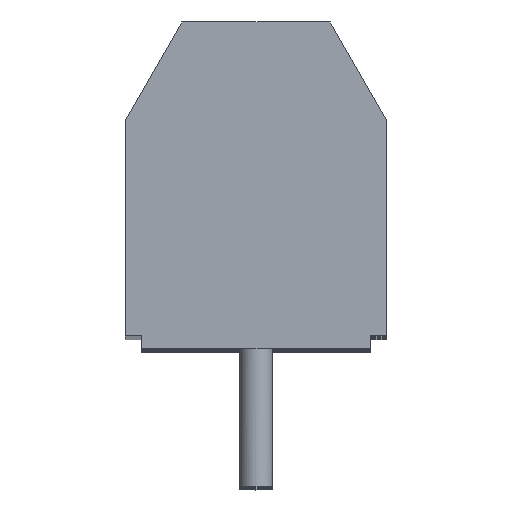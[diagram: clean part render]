
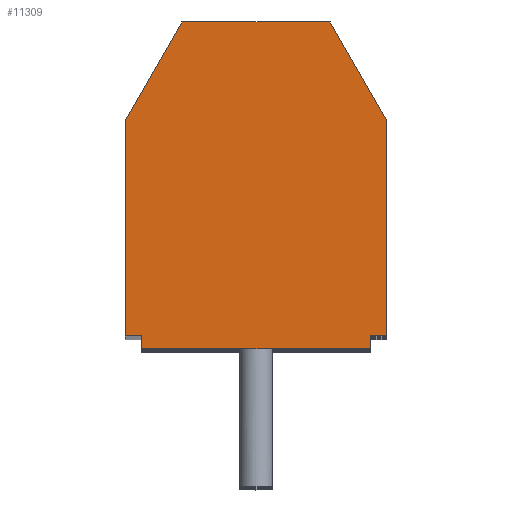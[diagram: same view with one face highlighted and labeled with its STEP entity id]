
A CAD part, top view. The second image highlights one B-rep face of the part: STEP entity #11309.
In plain terms, the highlighted planar face has unit normal (0, 0, 1).
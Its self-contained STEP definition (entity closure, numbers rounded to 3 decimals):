
#4764 = DIRECTION ( 'NONE',  ( 0., -1., 0. ) ) ;
#4765 = VECTOR ( 'NONE', #4764, 1000. ) ;
#4766 = CARTESIAN_POINT ( 'NONE',  ( -3.062, -3.045, 0. ) ) ;
#4767 = LINE ( 'NONE', #4766, #4765 ) ;
#4769 = CARTESIAN_POINT ( 'NONE',  ( -3.062, -3.245, 0. ) ) ;
#4843 = CARTESIAN_POINT ( 'NONE',  ( -3.062, -2.845, 0. ) ) ;
#6956 = CARTESIAN_POINT ( 'NONE',  ( -3.562, -2.845, 0. ) ) ;
#6957 = DIRECTION ( 'NONE',  ( -1., 0., 0. ) ) ;
#6958 = VECTOR ( 'NONE', #6957, 1000. ) ;
#6959 = CARTESIAN_POINT ( 'NONE',  ( -3.562, -2.845, 0. ) ) ;
#6960 = LINE ( 'NONE', #6959, #6958 ) ;
#9958 = VERTEX_POINT ( 'NONE', #23939 ) ;
#9960 = EDGE_CURVE ( 'NONE', #10034, #9958, #23938, .T. ) ;
#10014 = VERTEX_POINT ( 'NONE', #23996 ) ;
#10016 = EDGE_CURVE ( 'NONE', #10024, #10014, #23995, .T. ) ;
#10024 = VERTEX_POINT ( 'NONE', #23981 ) ;
#10026 = EDGE_CURVE ( 'NONE', #9958, #10024, #23980, .T. ) ;
#10034 = VERTEX_POINT ( 'NONE', #24030 ) ;
#10036 = EDGE_CURVE ( 'NONE', #19639, #10034, #24029, .T. ) ;
#10172 = EDGE_CURVE ( 'NONE', #10173, #21179, #24097, .T. ) ;
#10173 = VERTEX_POINT ( 'NONE', #24093 ) ;
#11268 = VERTEX_POINT ( 'NONE', #25834 ) ;
#11271 = EDGE_CURVE ( 'NONE', #10014, #11268, #25832, .T. ) ;
#11297 = ORIENTED_EDGE ( 'NONE', *, *, #11298, .F. ) ;
#11298 = EDGE_CURVE ( 'NONE', #11328, #11268, #25853, .T. ) ;
#11309 = ADVANCED_FACE ( 'NONE', ( #25897 ), #25903, .T. ) ;
#11310 = EDGE_LOOP ( 'NONE', ( #11311, #11312, #11313, #11314, #11315, #11316, #11317, #11318, #11319, #11297 ) ) ;
#11311 = ORIENTED_EDGE ( 'NONE', *, *, #11327, .T. ) ;
#11312 = ORIENTED_EDGE ( 'NONE', *, *, #10172, .T. ) ;
#11313 = ORIENTED_EDGE ( 'NONE', *, *, #21178, .F. ) ;
#11314 = ORIENTED_EDGE ( 'NONE', *, *, #19642, .T. ) ;
#11315 = ORIENTED_EDGE ( 'NONE', *, *, #10036, .T. ) ;
#11316 = ORIENTED_EDGE ( 'NONE', *, *, #9960, .T. ) ;
#11317 = ORIENTED_EDGE ( 'NONE', *, *, #10026, .T. ) ;
#11318 = ORIENTED_EDGE ( 'NONE', *, *, #10016, .T. ) ;
#11319 = ORIENTED_EDGE ( 'NONE', *, *, #11271, .T. ) ;
#11327 = EDGE_CURVE ( 'NONE', #11328, #10173, #25886, .T. ) ;
#11328 = VERTEX_POINT ( 'NONE', #25882 ) ;
#19639 = VERTEX_POINT ( 'NONE', #4769 ) ;
#19642 = EDGE_CURVE ( 'NONE', #19665, #19639, #4767, .T. ) ;
#19665 = VERTEX_POINT ( 'NONE', #4843 ) ;
#21178 = EDGE_CURVE ( 'NONE', #19665, #21179, #6960, .T. ) ;
#21179 = VERTEX_POINT ( 'NONE', #6956 ) ;
#23935 = DIRECTION ( 'NONE',  ( 0., 1., 0. ) ) ;
#23936 = VECTOR ( 'NONE', #23935, 1000. ) ;
#23937 = CARTESIAN_POINT ( 'NONE',  ( 3.938, 1.755, 0. ) ) ;
#23938 = LINE ( 'NONE', #23937, #23936 ) ;
#23939 = CARTESIAN_POINT ( 'NONE',  ( 3.938, -2.845, 0. ) ) ;
#23977 = DIRECTION ( 'NONE',  ( 1., 0., 0. ) ) ;
#23978 = VECTOR ( 'NONE', #23977, 1000. ) ;
#23979 = CARTESIAN_POINT ( 'NONE',  ( 0.438, -2.845, 0. ) ) ;
#23980 = LINE ( 'NONE', #23979, #23978 ) ;
#23981 = CARTESIAN_POINT ( 'NONE',  ( 4.438, -2.845, 0. ) ) ;
#23992 = DIRECTION ( 'NONE',  ( 0., 1., 0. ) ) ;
#23993 = VECTOR ( 'NONE', #23992, 1000. ) ;
#23994 = CARTESIAN_POINT ( 'NONE',  ( 4.438, -3.245, 0. ) ) ;
#23995 = LINE ( 'NONE', #23994, #23993 ) ;
#23996 = CARTESIAN_POINT ( 'NONE',  ( 4.438, 3.755, 0. ) ) ;
#24026 = DIRECTION ( 'NONE',  ( 1., 0., 0. ) ) ;
#24027 = VECTOR ( 'NONE', #24026, 1000. ) ;
#24028 = CARTESIAN_POINT ( 'NONE',  ( 0.438, -3.245, 0. ) ) ;
#24029 = LINE ( 'NONE', #24028, #24027 ) ;
#24030 = CARTESIAN_POINT ( 'NONE',  ( 3.938, -3.245, 0. ) ) ;
#24093 = CARTESIAN_POINT ( 'NONE',  ( -3.562, 3.755, 0. ) ) ;
#24094 = DIRECTION ( 'NONE',  ( 0., -1., 0. ) ) ;
#24095 = VECTOR ( 'NONE', #24094, 1000. ) ;
#24096 = CARTESIAN_POINT ( 'NONE',  ( -3.562, 1.755, 0. ) ) ;
#24097 = LINE ( 'NONE', #24096, #24095 ) ;
#25829 = DIRECTION ( 'NONE',  ( -0.5, 0.866, 0. ) ) ;
#25830 = VECTOR ( 'NONE', #25829, 1000. ) ;
#25831 = CARTESIAN_POINT ( 'NONE',  ( 4.438, 3.755, 0. ) ) ;
#25832 = LINE ( 'NONE', #25831, #25830 ) ;
#25834 = CARTESIAN_POINT ( 'NONE',  ( 2.706, 6.755, 0. ) ) ;
#25850 = DIRECTION ( 'NONE',  ( 1., 0., 0. ) ) ;
#25851 = VECTOR ( 'NONE', #25850, 1000. ) ;
#25852 = CARTESIAN_POINT ( 'NONE',  ( 2.706, 6.755, 0. ) ) ;
#25853 = LINE ( 'NONE', #25852, #25851 ) ;
#25882 = CARTESIAN_POINT ( 'NONE',  ( -1.83, 6.755, 0. ) ) ;
#25883 = DIRECTION ( 'NONE',  ( -0.5, -0.866, 0. ) ) ;
#25884 = VECTOR ( 'NONE', #25883, 1000. ) ;
#25885 = CARTESIAN_POINT ( 'NONE',  ( -1.83, 6.755, 0. ) ) ;
#25886 = LINE ( 'NONE', #25885, #25884 ) ;
#25893 = DIRECTION ( 'NONE',  ( 1., 0., 0. ) ) ;
#25894 = DIRECTION ( 'NONE',  ( 0., 0., 1. ) ) ;
#25895 = CARTESIAN_POINT ( 'NONE',  ( -3.562, -3.245, 0. ) ) ;
#25896 = AXIS2_PLACEMENT_3D ( 'NONE', #25895, #25894, #25893 ) ;
#25897 = FACE_OUTER_BOUND ( 'NONE', #11310, .T. ) ;
#25903 = PLANE ( 'NONE',  #25896 ) ;
